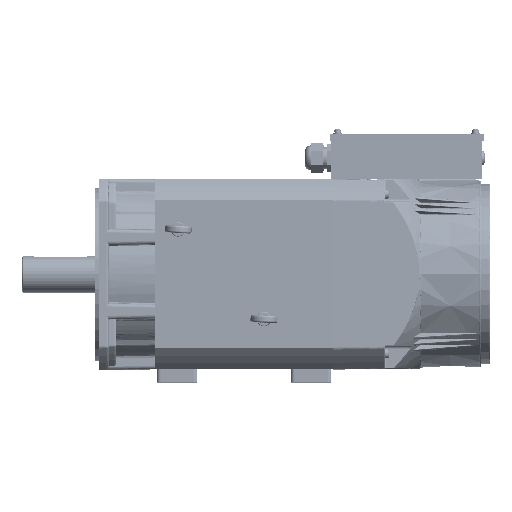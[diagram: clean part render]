
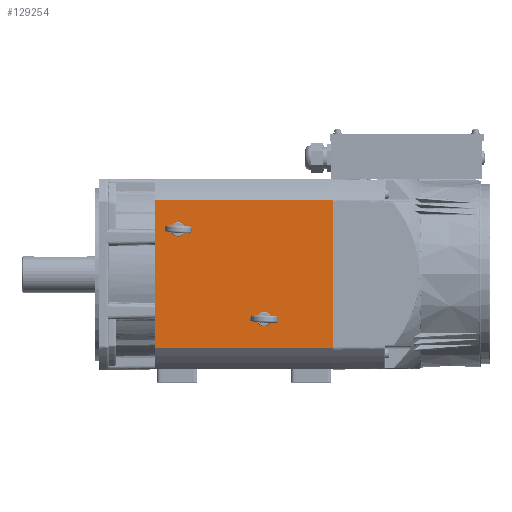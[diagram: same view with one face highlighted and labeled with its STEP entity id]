
A CAD part, top view. The second image highlights one B-rep face of the part: STEP entity #129254.
In plain terms, the highlighted planar face has unit normal (0, 0, 1) as drawn and (0, -1, 0) by its records, which use the part's own axes.
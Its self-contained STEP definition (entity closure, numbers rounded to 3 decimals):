
#3819 = CARTESIAN_POINT ( 'NONE',  ( -76.959, -98.5, 155. ) ) ;
#4523 = EDGE_CURVE ( 'NONE', #168601, #190301, #19247, .T. ) ;
#5343 = ORIENTED_EDGE ( 'NONE', *, *, #204366, .T. ) ;
#11041 = CARTESIAN_POINT ( 'NONE',  ( -46.5, -98.5, 24. ) ) ;
#19158 = EDGE_LOOP ( 'NONE', ( #219421, #57242 ) ) ;
#19247 = LINE ( 'NONE', #154473, #250306 ) ;
#21534 = DIRECTION ( 'NONE',  ( 0., -1., 0. ) ) ;
#21790 = ORIENTED_EDGE ( 'NONE', *, *, #249630, .F. ) ;
#49387 = AXIS2_PLACEMENT_3D ( 'NONE', #143030, #97002, #98787 ) ;
#49400 = DIRECTION ( 'NONE',  ( 0., 0., -1. ) ) ;
#52492 = CARTESIAN_POINT ( 'NONE',  ( 46.5, -98.5, 109.6 ) ) ;
#56792 = LINE ( 'NONE', #125525, #155686 ) ;
#57242 = ORIENTED_EDGE ( 'NONE', *, *, #224200, .F. ) ;
#57479 = AXIS2_PLACEMENT_3D ( 'NONE', #112927, #173084, #260721 ) ;
#57773 = VERTEX_POINT ( 'NONE', #257878 ) ;
#60710 = CIRCLE ( 'NONE', #89616, 3.4 ) ;
#70126 = DIRECTION ( 'NONE',  ( 0., 0., -1. ) ) ;
#72001 = CIRCLE ( 'NONE', #95893, 3.4 ) ;
#75561 = VERTEX_POINT ( 'NONE', #52492 ) ;
#79889 = VERTEX_POINT ( 'NONE', #200427 ) ;
#79968 = ORIENTED_EDGE ( 'NONE', *, *, #217020, .F. ) ;
#84532 = ORIENTED_EDGE ( 'NONE', *, *, #160340, .F. ) ;
#89616 = AXIS2_PLACEMENT_3D ( 'NONE', #261965, #135382, #70126 ) ;
#90030 = EDGE_CURVE ( 'NONE', #75561, #180523, #60710, .T. ) ;
#95893 = AXIS2_PLACEMENT_3D ( 'NONE', #190337, #21534, #253041 ) ;
#97002 = DIRECTION ( 'NONE',  ( 0., 1., 0. ) ) ;
#98224 = CARTESIAN_POINT ( 'NONE',  ( 76.959, -98.5, 185. ) ) ;
#98787 = DIRECTION ( 'NONE',  ( -1., 0., 0. ) ) ;
#100178 = CARTESIAN_POINT ( 'NONE',  ( -46.5, -98.5, 20.6 ) ) ;
#104331 = CARTESIAN_POINT ( 'NONE',  ( -76.959, -98.5, 0. ) ) ;
#112927 = CARTESIAN_POINT ( 'NONE',  ( 46.5, -98.5, 113. ) ) ;
#117935 = VERTEX_POINT ( 'NONE', #100178 ) ;
#125525 = CARTESIAN_POINT ( 'NONE',  ( 76.959, -98.5, 0. ) ) ;
#128082 = DIRECTION ( 'NONE',  ( 0., 0., -1. ) ) ;
#129254 = ADVANCED_FACE ( 'NONE', ( #236480, #170536, #140856 ), #139376, .F. ) ;
#131594 = CARTESIAN_POINT ( 'NONE',  ( 76.959, -98.5, 185. ) ) ;
#135382 = DIRECTION ( 'NONE',  ( 0., -1., 0. ) ) ;
#139376 = PLANE ( 'NONE',  #49387 ) ;
#140856 = FACE_OUTER_BOUND ( 'NONE', #219540, .T. ) ;
#142680 = VERTEX_POINT ( 'NONE', #104331 ) ;
#143030 = CARTESIAN_POINT ( 'NONE',  ( 76.959, -98.5, 155. ) ) ;
#149794 = EDGE_CURVE ( 'NONE', #142680, #190301, #56792, .T. ) ;
#154473 = CARTESIAN_POINT ( 'NONE',  ( 76.959, -98.5, 155. ) ) ;
#155686 = VECTOR ( 'NONE', #208851, 1000. ) ;
#157636 = DIRECTION ( 'NONE',  ( 0., -1., 0. ) ) ;
#160340 = EDGE_CURVE ( 'NONE', #117935, #57773, #195535, .T. ) ;
#165481 = LINE ( 'NONE', #3819, #168879 ) ;
#168601 = VERTEX_POINT ( 'NONE', #131594 ) ;
#168879 = VECTOR ( 'NONE', #128082, 1000. ) ;
#170536 = FACE_BOUND ( 'NONE', #19158, .T. ) ;
#173084 = DIRECTION ( 'NONE',  ( 0., -1., 0. ) ) ;
#175899 = ORIENTED_EDGE ( 'NONE', *, *, #149794, .T. ) ;
#180523 = VERTEX_POINT ( 'NONE', #210442 ) ;
#185082 = CARTESIAN_POINT ( 'NONE',  ( 76.959, -98.5, 0. ) ) ;
#190301 = VERTEX_POINT ( 'NONE', #185082 ) ;
#190337 = CARTESIAN_POINT ( 'NONE',  ( -46.5, -98.5, 24. ) ) ;
#192345 = LINE ( 'NONE', #98224, #271488 ) ;
#194818 = CIRCLE ( 'NONE', #57479, 3.4 ) ;
#195535 = CIRCLE ( 'NONE', #247550, 3.4 ) ;
#200427 = CARTESIAN_POINT ( 'NONE',  ( -76.959, -98.5, 185. ) ) ;
#204366 = EDGE_CURVE ( 'NONE', #79889, #142680, #165481, .T. ) ;
#204429 = DIRECTION ( 'NONE',  ( 1., 0., 0. ) ) ;
#208851 = DIRECTION ( 'NONE',  ( 1., 0., 0. ) ) ;
#210442 = CARTESIAN_POINT ( 'NONE',  ( 46.5, -98.5, 116.4 ) ) ;
#217020 = EDGE_CURVE ( 'NONE', #79889, #168601, #192345, .T. ) ;
#219421 = ORIENTED_EDGE ( 'NONE', *, *, #90030, .F. ) ;
#219540 = EDGE_LOOP ( 'NONE', ( #175899, #240653, #79968, #5343 ) ) ;
#224200 = EDGE_CURVE ( 'NONE', #180523, #75561, #194818, .T. ) ;
#236480 = FACE_BOUND ( 'NONE', #269842, .T. ) ;
#240653 = ORIENTED_EDGE ( 'NONE', *, *, #4523, .F. ) ;
#240706 = DIRECTION ( 'NONE',  ( 0., 0., -1. ) ) ;
#247550 = AXIS2_PLACEMENT_3D ( 'NONE', #11041, #157636, #240706 ) ;
#249630 = EDGE_CURVE ( 'NONE', #57773, #117935, #72001, .T. ) ;
#250306 = VECTOR ( 'NONE', #49400, 1000. ) ;
#253041 = DIRECTION ( 'NONE',  ( 0., 0., -1. ) ) ;
#257878 = CARTESIAN_POINT ( 'NONE',  ( -46.5, -98.5, 27.4 ) ) ;
#260721 = DIRECTION ( 'NONE',  ( 0., 0., -1. ) ) ;
#261965 = CARTESIAN_POINT ( 'NONE',  ( 46.5, -98.5, 113. ) ) ;
#269842 = EDGE_LOOP ( 'NONE', ( #84532, #21790 ) ) ;
#271488 = VECTOR ( 'NONE', #204429, 1000. ) ;
